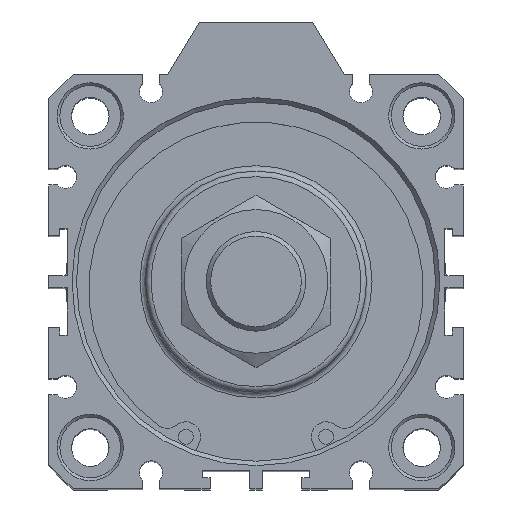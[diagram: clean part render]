
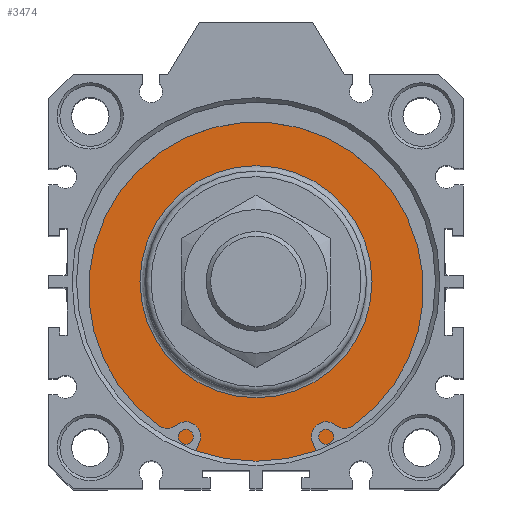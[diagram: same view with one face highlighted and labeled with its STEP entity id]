
A CAD part, top view. The second image highlights one B-rep face of the part: STEP entity #3474.
In plain terms, the highlighted planar face has unit normal (0, 0, 1).
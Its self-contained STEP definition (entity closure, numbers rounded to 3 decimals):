
#3423=CARTESIAN_POINT('',(2.99,22.555,112.3));
#3424=VERTEX_POINT('',#3423);
#3425=CARTESIAN_POINT('',(2.99,1.555,112.3));
#3426=DIRECTION('',(0.0,0.0,1.0));
#3427=DIRECTION('',(0.0,-1.0,0.0));
#3428=AXIS2_PLACEMENT_3D('',#3425,#3426,#3427);
#3429=CIRCLE('',#3428,21.);
#3430=EDGE_CURVE('',#3424,#3424,#3429,.T.);
#3455=CARTESIAN_POINT('',(2.99,27.805,112.3));
#3456=DIRECTION('',(0.0,0.0,1.0));
#3457=DIRECTION('',(1.0,0.0,0.0));
#3458=AXIS2_PLACEMENT_3D('',#3455,#3456,#3457);
#3459=PLANE('',#3458);
#3460=CARTESIAN_POINT('',(2.99,34.055,112.3));
#3461=VERTEX_POINT('',#3460);
#3462=CARTESIAN_POINT('',(2.99,1.555,112.3));
#3463=DIRECTION('',(0.0,0.0,-1.0));
#3464=DIRECTION('',(0.0,1.0,0.0));
#3465=AXIS2_PLACEMENT_3D('',#3462,#3463,#3464);
#3466=CIRCLE('',#3465,32.5);
#3467=EDGE_CURVE('',#3461,#3461,#3466,.T.);
#3468=ORIENTED_EDGE('',*,*,#3467,.F.);
#3469=EDGE_LOOP('',(#3468));
#3470=FACE_OUTER_BOUND('',#3469,.T.);
#3471=ORIENTED_EDGE('',*,*,#3430,.F.);
#3472=EDGE_LOOP('',(#3471));
#3473=FACE_BOUND('',#3472,.T.);
#3474=ADVANCED_FACE('',(#3470,#3473),#3459,.T.);
